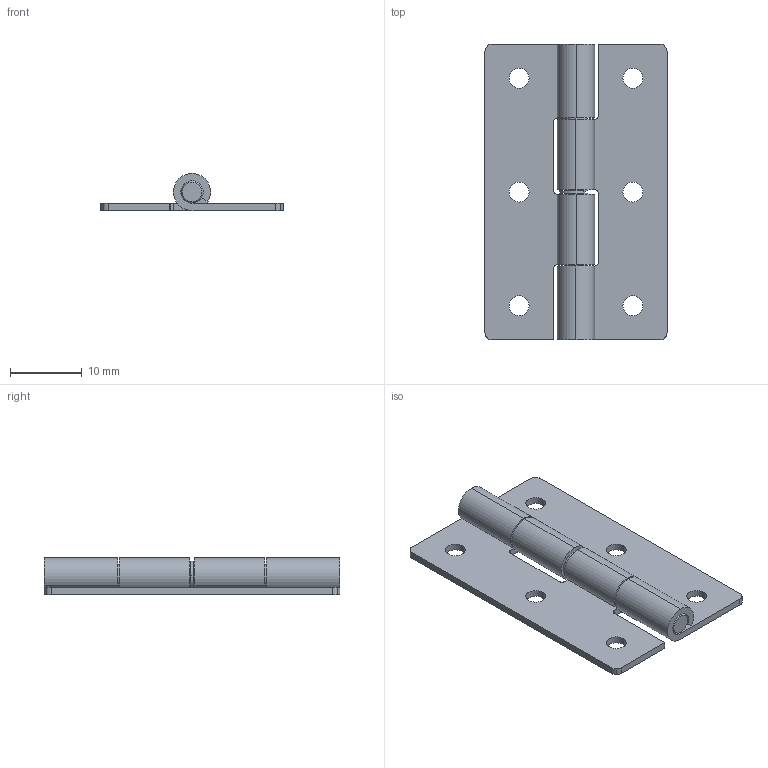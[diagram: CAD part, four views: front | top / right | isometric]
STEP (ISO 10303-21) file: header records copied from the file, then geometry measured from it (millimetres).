
FILE_DESCRIPTION(('STEP AP214'),'1');
FILE_NAME('C:/Users/HAN/Desktop/0500-0701-HNG Rev 0_0.stp','2015-01-05T16:17:31',(' '),(' '),'Spatial InterOp 3D',' ',' ');
FILE_SCHEMA(('automotive_design'));
Length unit declared in the file: inch
Products named in the file (4): 0500-0701-BND Rev 0_0; 0500-0701-SHA Rev 0_0; Snap Ring 2000-12
Bounding box: 25.4 x 41.27 x 5.17 mm (x, y, z)
Volume: 1647.1 mm3; surface area: 3451 mm2
Topology: 4 solids, 4 shells, 104 faces, 278 edges, 184 vertices
Faces by surface type: cylinder 64, plane 36, cone 4
Entity records: 4219 total; most frequent: DIRECTION 626, CARTESIAN_POINT 570, ORIENTED_EDGE 556, EDGE_CURVE 278, AXIS2_PLACEMENT_3D 240, VERTEX_POINT 184, LINE 146, VECTOR 146
